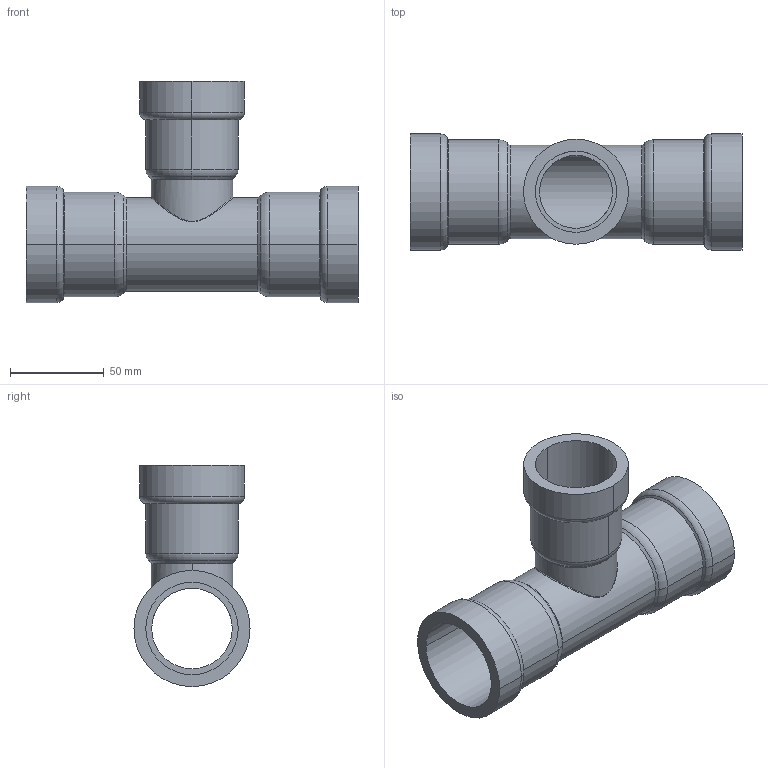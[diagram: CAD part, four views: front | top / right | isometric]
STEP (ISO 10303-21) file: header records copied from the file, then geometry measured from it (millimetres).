
FILE_DESCRIPTION(('Creo Elements/Direct Modeling STEP Export'),'2;1');
FILE_NAME('C9415_1-1-2_1-1-4_1-1-2.stp','2020-07-15T10:14:00',(''),(''),'PTC Creo Elements/Direct Modeling STEP processor for AP214 (Solid Model)','PTC Creo Elements/Direct Modeling 19.0C 15-Aug-2015 (C) Parametric Technology GmbH','');
FILE_SCHEMA(('AUTOMOTIVE_DESIGN { 1 0 10303 214 1 1 1 1 }'));
Length unit declared in the file: millimetre
Products named in the file (1): 9415_1-1-2_1-1-4_1-1-2
Bounding box: 177.18 x 62 x 118.04 mm (x, y, z)
Volume: 149144 mm3; surface area: 78751.6 mm2
Topology: 1 solids, 1 shells, 60 faces, 132 edges, 78 vertices
Faces by surface type: cylinder 26, cone 12, torus 12, plane 6, bspline 4
Entity records: 6776 total; most frequent: CARTESIAN_POINT 5567, ORIENTED_EDGE 264, DIRECTION 236, EDGE_CURVE 132, AXIS2_PLACEMENT_3D 99, VERTEX_POINT 78, EDGE_LOOP 68, FACE_OUTER_BOUND 60
